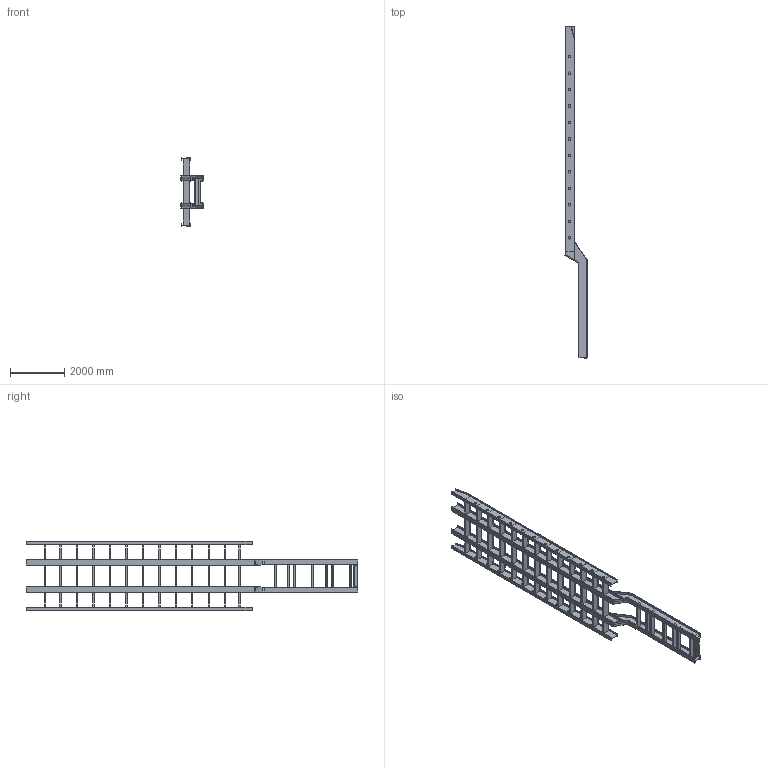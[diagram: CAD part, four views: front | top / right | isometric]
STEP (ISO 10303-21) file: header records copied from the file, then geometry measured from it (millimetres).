
FILE_DESCRIPTION( ( 'STEP Version 203' ), '1' );
FILE_NAME( 'D:/Data/DesignModeler_TrainingV15/Workshops_6B/Trailer.stp', '01/08/14 10:58:03', ( 'jdopicol' ), ( ' ' ), 'PSStep 14.0', 'DesignModeler STEP Output', ' ' );
FILE_SCHEMA( ( 'CONFIG_CONTROL_DESIGN' ) );
Length unit declared in the file: metre
Products named in the file (68): 1; 2; 3; 4; 5; 6; 7; 8; 9; 10; 11; 12; 13; 14; 15; 16; 17; 18; 19; 20; 21; 22; 23; 24; 25; 26; 27; 28; 29; 30; 31; 32; 33; 34; 35; 36; 37; 38; 39; 40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
Bounding box: 824.17 x 12281.8 x 2584.63 mm (x, y, z)
Volume: 478702583.1 mm3; surface area: 86304164.4 mm2
Topology: 68 solids, 68 shells, 1326 faces, 3570 edges, 2380 vertices
Faces by surface type: plane 766, revolution 336, cylinder 176, bspline 48
Entity records: 45055 total; most frequent: CARTESIAN_POINT 8832, ORIENTED_EDGE 7140, DIRECTION 7046, EDGE_CURVE 3570, LINE 2450, VECTOR 2450, VERTEX_POINT 2380, AXIS2_PLACEMENT_3D 2130
